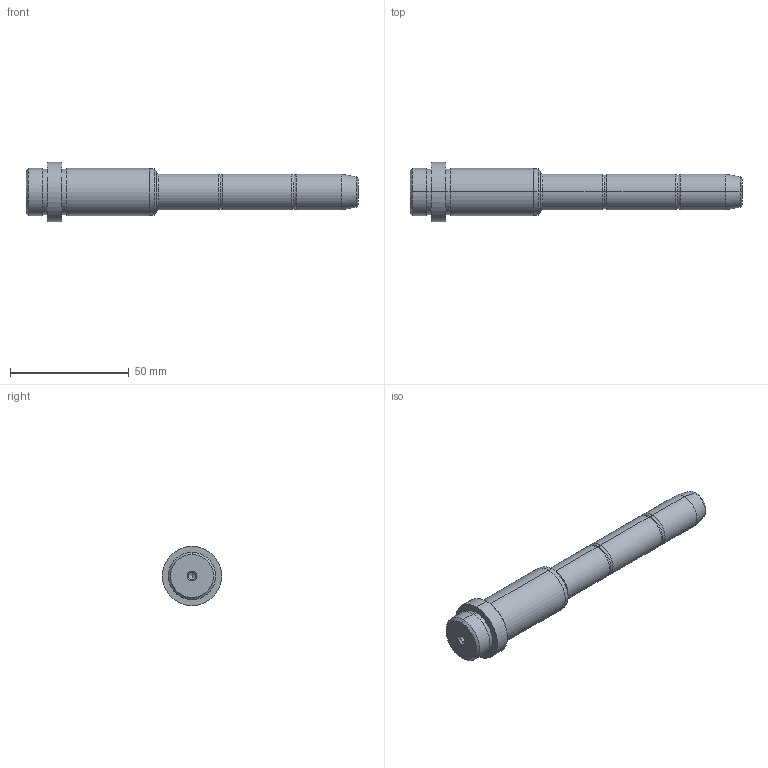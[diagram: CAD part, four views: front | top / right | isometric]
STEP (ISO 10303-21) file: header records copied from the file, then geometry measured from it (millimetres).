
FILE_DESCRIPTION( ( 'STEP AP203' ), '1' );
FILE_NAME( 'C:/Projects/D03 - 15x46x85.step', '2002-12-31T23:49:07', ( ' ' ), ( ' ' ), 'XStep 1.0', ' ', ' ' );
FILE_SCHEMA( ( 'CONFIG_CONTROL_DESIGN' ) );
Length unit declared in the file: metre
Products named in the file (1): 1
Bounding box: 140 x 25 x 25 mm (x, y, z)
Volume: 33028.7 mm3; surface area: 8533.5 mm2
Topology: 1 solids, 1 shells, 56 faces, 113 edges, 64 vertices
Faces by surface type: revolution 36, bspline 20
Entity records: 1691 total; most frequent: CARTESIAN_POINT 513, ORIENTED_EDGE 220, DIRECTION 218, EDGE_CURVE 110, AXIS2_PLACEMENT_3D 73, CIRCLE 72, EDGE_LOOP 64, VERTEX_POINT 64
